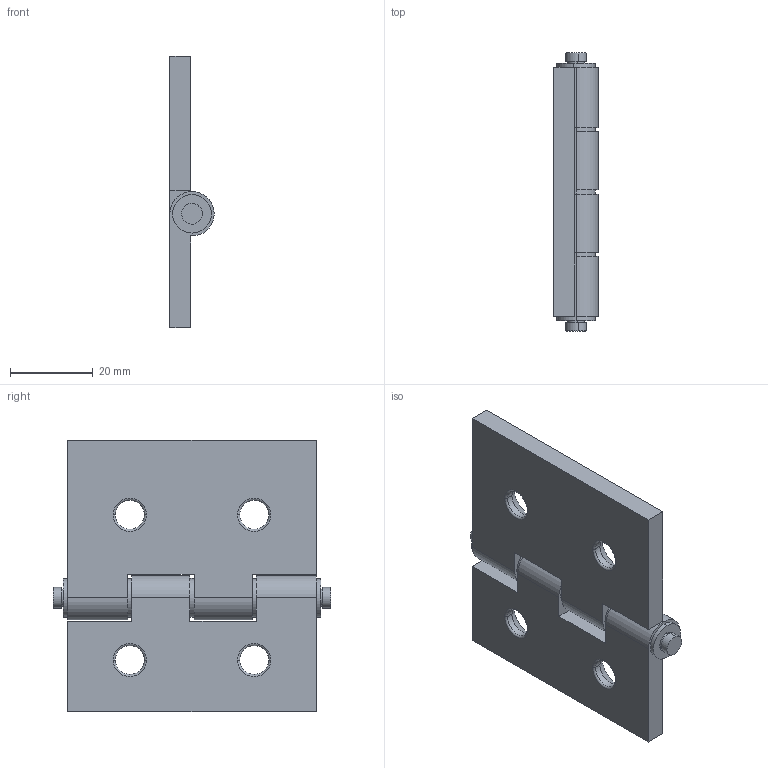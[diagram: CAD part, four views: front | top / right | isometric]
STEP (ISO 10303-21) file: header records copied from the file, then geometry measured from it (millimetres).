
FILE_DESCRIPTION (( 'STEP AP203' ), '1' );
FILE_NAME ('HD35.STEP', '2024-02-19T12:22:42', ( '' ), ( '' ), 'SwSTEP 2.0', 'SolidWorks 2022', '' );
FILE_SCHEMA (( 'CONFIG_CONTROL_DESIGN' ));
Length unit declared in the file: millimetre
Products named in the file (1): HD35
Bounding box: 10.7 x 67 x 65.5 mm (x, y, z)
Volume: 21061.7 mm3; surface area: 13115.2 mm2
Topology: 8 solids, 8 shells, 110 faces, 254 edges, 164 vertices
Faces by surface type: cylinder 58, plane 36, torus 8, cone 8
Entity records: 3285 total; most frequent: DIRECTION 616, CARTESIAN_POINT 529, ORIENTED_EDGE 508, EDGE_CURVE 254, AXIS2_PLACEMENT_3D 251, VERTEX_POINT 164, EDGE_LOOP 140, CIRCLE 140
